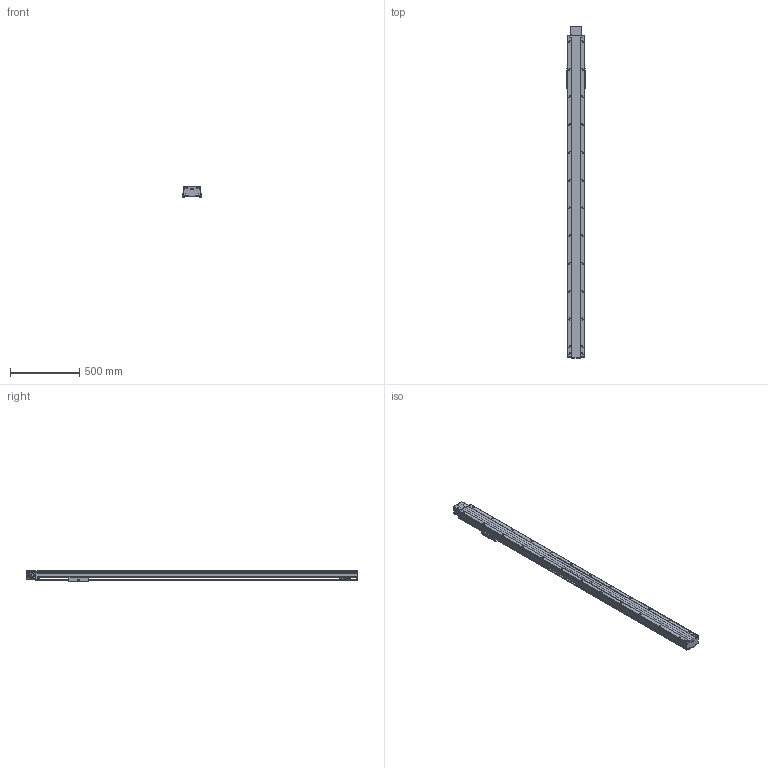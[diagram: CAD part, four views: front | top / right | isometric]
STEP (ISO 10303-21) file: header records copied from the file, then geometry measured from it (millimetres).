
FILE_DESCRIPTION(/* description */ (''),/* implementation_level */ '2;1');
FILE_NAME(/* name */ 'TKB120-FL-2000_asm1_stp.stp',/* time_stamp */ '2016-06-28T15:37:36+08:00',/* author */ (''),/* organization */ (''),/* preprocessor_version */ 'ST-DEVELOPER v15',/* originating_system */ 'SIEMENS PLM Software NX 8.5',/* authorisation */ '');
FILE_SCHEMA (('AUTOMOTIVE_DESIGN { 1 0 10303 214 3 1 1 1 }'));
Length unit declared in the file: millimetre
Products named in the file (3): 200-2; 200-1; TKB120-FL-2000_asm1_stp
Assembly tree (2 placements, depth 2):
  TKB120-FL-2000_asm1_stp
    200-1
    200-2
Bounding box: 134 x 2391 x 80 mm (x, y, z)
Volume: 5803696.3 mm3; surface area: 2409575.6 mm2
Topology: 2 solids, 3 shells, 880 faces, 2577 edges, 1688 vertices
Faces by surface type: cylinder 443, plane 395, cone 42
Full cylindrical faces by diameter (mm): 2.5 x4, 3.3 x20, 4.2 x4, 4.5 x24, 5 x36, 5.5 x26, 6.6 x6, 6.8 x4, 7.5 x4, 8 x12, 9 x6, 9.75 x52, 10.5 x4, 11 x2, 12 x4, 14 x2, 17 x2, 35 x2, 40 x3, 50 x2, 52 x1
Entity records: 29110 total; most frequent: CARTESIAN_POINT 6423, DIRECTION 4741, ORIENTED_EDGE 4386, EDGE_CURVE 2193, AXIS2_PLACEMENT_3D 1816, VERTEX_POINT 1608, EDGE_LOOP 1363, LINE 1109
